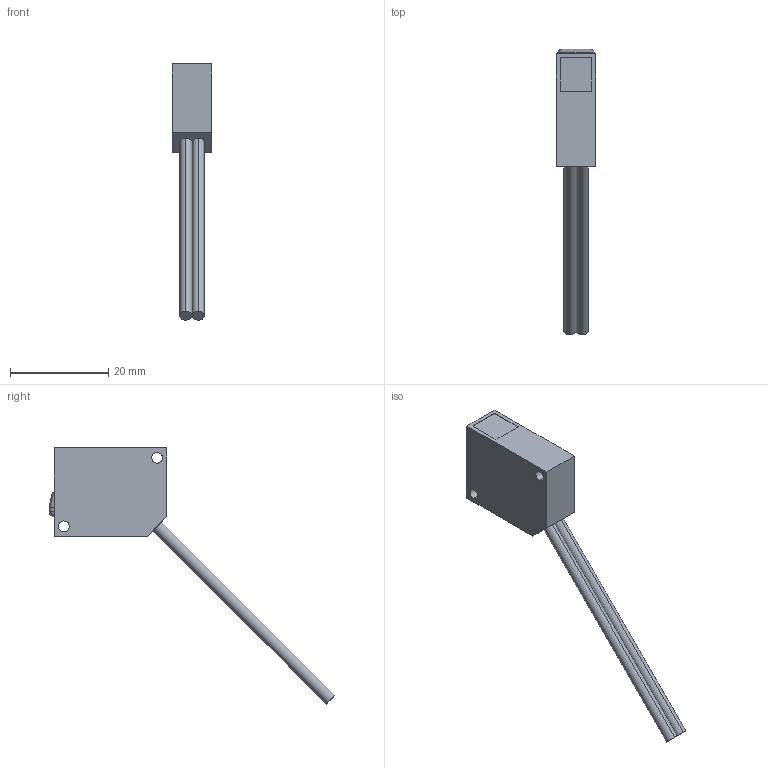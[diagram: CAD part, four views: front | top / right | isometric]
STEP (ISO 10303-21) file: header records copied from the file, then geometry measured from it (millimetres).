
FILE_DESCRIPTION (( 'STEP AP203' ), '1' );
FILE_NAME ('ls-h201.STEP', '2013-04-24T04:50:47', ( ' ' ), ( ' ' ), 'SwSTEP 2.0', 'SolidWorks 2010', '' );
FILE_SCHEMA (( 'CONFIG_CONTROL_DESIGN' ));
Length unit declared in the file: millimetre
Products named in the file (1): ls-h201
Bounding box: 8 x 58.24 x 52.24 mm (x, y, z)
Volume: 3700.6 mm3; surface area: 2298 mm2
Topology: 1 solids, 1 shells, 35 faces, 88 edges, 56 vertices
Faces by surface type: plane 18, cylinder 15, sphere 2
Entity records: 1119 total; most frequent: CARTESIAN_POINT 196, DIRECTION 178, ORIENTED_EDGE 172, EDGE_CURVE 86, AXIS2_PLACEMENT_3D 62, VERTEX_POINT 56, VECTOR 54, LINE 54
